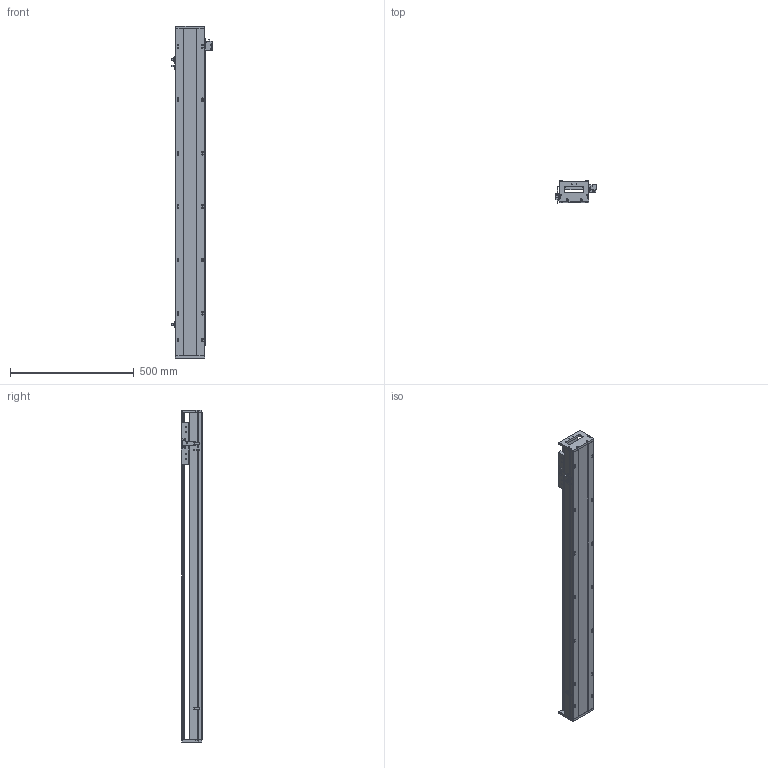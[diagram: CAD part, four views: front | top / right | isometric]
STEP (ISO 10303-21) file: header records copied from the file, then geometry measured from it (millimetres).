
FILE_DESCRIPTION (( 'STEP AP203' ), '1' );
FILE_NAME ('SKR12S-C1-S1074（简）.STEP', '2022-09-26T02:47:58', ( '' ), ( '' ), 'SwSTEP 2.0', 'SolidWorks 2018', '' );
FILE_SCHEMA (( 'CONFIG_CONTROL_DESIGN' ));
Length unit declared in the file: millimetre
Products named in the file (8): SKR12菁釱-C1-S1074(潠); EE-SX672; 棠掑假蚾輸; SKR12滑台-170L（简）; SKR12耜啣; 覜茼え; SKR12S-C1-S1074（简）; SIKO棠掑
Assembly tree (10 placements, depth 2):
  SKR12S-C1-S1074（简）
    SKR12菁釱-C1-S1074(潠)
    SKR12滑台-170L（简）
    SKR12耜啣  x2
    棠掑假蚾輸
    SIKO棠掑
    覜茼え
    EE-SX672  x3
Bounding box: 162.7 x 87.3 x 1344 mm (x, y, z)
Volume: 5962733.5 mm3; surface area: 961791.8 mm2
Topology: 11 solids, 11 shells, 1012 faces, 2695 edges, 1703 vertices
Faces by surface type: cylinder 469, plane 405, cone 138
Entity records: 27751 total; most frequent: CARTESIAN_POINT 5651, DIRECTION 4569, ORIENTED_EDGE 4346, EDGE_CURVE 2173, AXIS2_PLACEMENT_3D 1693, VERTEX_POINT 1407, VECTOR 1183, LINE 1183
